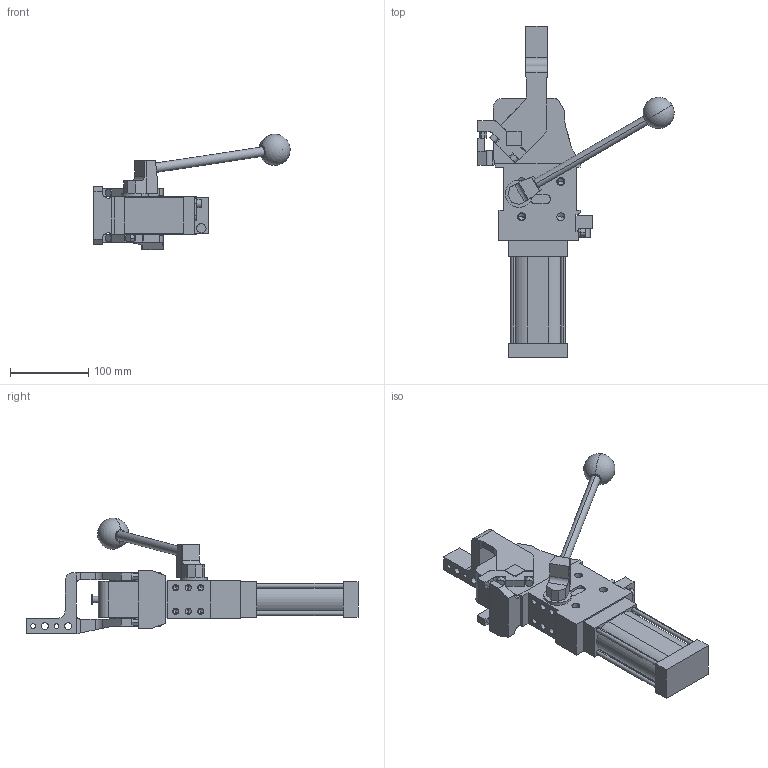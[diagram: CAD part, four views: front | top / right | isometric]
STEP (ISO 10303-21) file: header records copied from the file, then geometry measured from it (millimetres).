
FILE_DESCRIPTION (( 'STEP AP214' ), '1' );
FILE_NAME ('cplm50lath1dsi1g_75.STEP', '2023-01-26T13:28:54', ( '' ), ( '' ), 'SwSTEP 2.0', 'SolidWorks 2022', '' );
FILE_SCHEMA (( 'AUTOMOTIVE_DESIGN' ));
Length unit declared in the file: millimetre
Products named in the file (5): meccanica_cplm_50_tassello_esterno; leva_h1ds_cpl50t; comando_manuale_cplm_50; cplm50lath1dsi1g_75; blocchetto_VEP_0
Assembly tree (4 placements, depth 2):
  cplm50lath1dsi1g_75
    meccanica_cplm_50_tassello_esterno
    blocchetto_VEP_0
    leva_h1ds_cpl50t
    comando_manuale_cplm_50
Bounding box: 251.06 x 424.5 x 148 mm (x, y, z)
Volume: 1510268.7 mm3; surface area: 190869.6 mm2
Topology: 4 solids, 4 shells, 468 faces, 1213 edges, 761 vertices
Faces by surface type: plane 243, cylinder 173, cone 50, sphere 2
Entity records: 15558 total; most frequent: CARTESIAN_POINT 2483, DIRECTION 2468, ORIENTED_EDGE 2324, EDGE_CURVE 1162, AXIS2_PLACEMENT_3D 841, LINE 786, VECTOR 786, VERTEX_POINT 758
